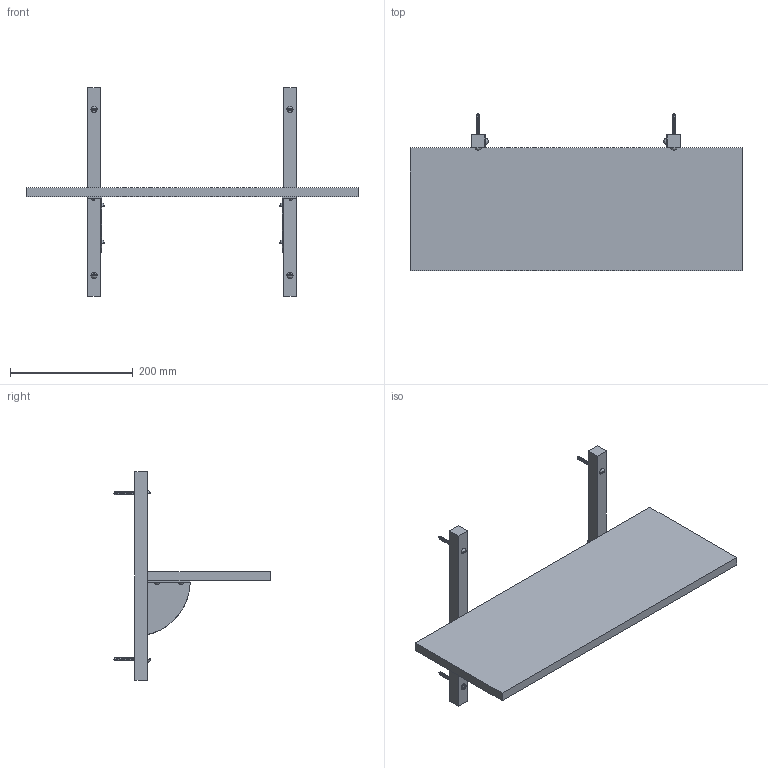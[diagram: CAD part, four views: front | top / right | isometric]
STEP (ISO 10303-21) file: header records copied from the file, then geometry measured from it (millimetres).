
FILE_DESCRIPTION(/* description */ (''),/* implementation_level */ '2;1');
FILE_NAME(/* name */ 'SN782U~2',/* time_stamp */ '2020-03-27T15:22:16+01:00',/* author */ (''),/* organization */ (''),/* preprocessor_version */ 'ST-DEVELOPER v16.5',/* originating_system */ '',/* authorisation */ '');
FILE_SCHEMA (('AUTOMOTIVE_DESIGN'));
Length unit declared in the file: millimetre
Products named in the file (1): Document
Bounding box: 540 x 256.06 x 339 mm (x, y, z)
Volume: 1957058.5 mm3; surface area: 340110.2 mm2
Topology: 35 solids, 99 shells, 292 faces, 822 edges, 596 vertices
Faces by surface type: plane 146, bspline 146
Entity records: 47116 total; most frequent: CARTESIAN_POINT 41571, ORIENTED_EDGE 1244, EDGE_CURVE 766, VERTEX_POINT 592, B_SPLINE_CURVE_WITH_KNOTS 468, EDGE_LOOP 308, ADVANCED_FACE 292, FACE_OUTER_BOUND 292
